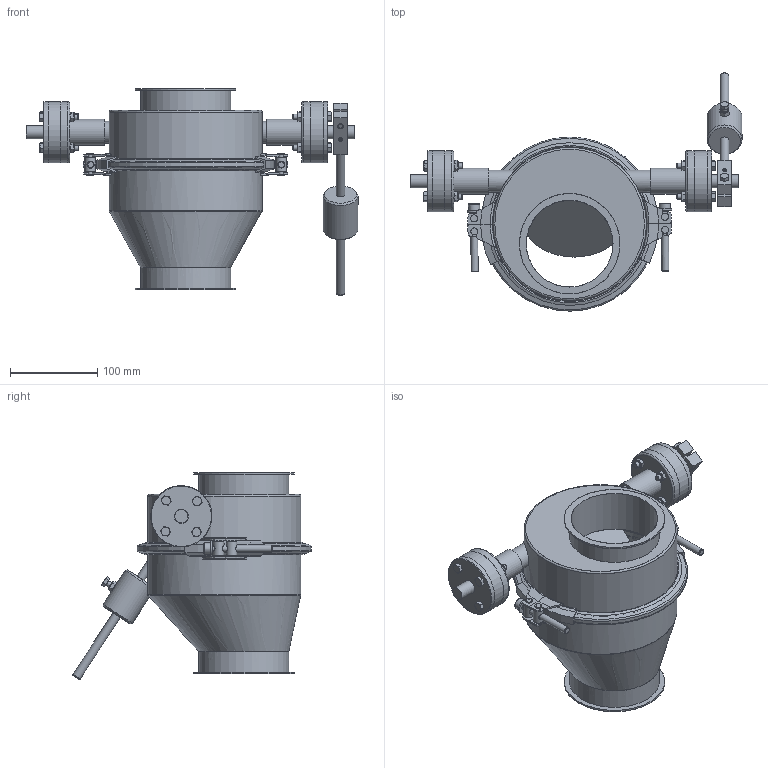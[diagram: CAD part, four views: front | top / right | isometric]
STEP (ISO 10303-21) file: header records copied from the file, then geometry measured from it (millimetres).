
FILE_DESCRIPTION((''),'2;1');
FILE_NAME('U:\Wolfgang\Marcel-3D\fertig\Kapitel 8\1021175.stp','2011-05-03T15:06:58',('TK1'),(''),'Autodesk Inventor 2010','Autodesk Inventor 2010','');
FILE_SCHEMA(('AUTOMOTIVE_DESIGN { 1 0 10303 214 1 1 1 1 }'));
Length unit declared in the file: millimetre
Products named in the file (20): 1021175; Hebel D15; WelleDN100; Wellenende D15; Buchse D15 70-50; lagerdeckel D15; PendelkugellagerD15; DIN EN ISO 4018 M6x40; DIN EN ISO 4018 M6x30; DIN 555 - ersetzt durch DIN EN 24034 M6; DIN 914 M5 x 6; DIN EN ISO 4018 M6x20; 1011175-1; 1712056; 1722055-1; Verschluss b=199; Verschlussrolle; VerschlussrolleGewinde; ISO 4762 M8 x 70; ISO 7089 8 - 140 HV
Assembly tree (44 placements, depth 3):
  1021175
    Hebel D15
    WelleDN100
    Wellenende D15  x2
      Buchse D15 70-50
      lagerdeckel D15
      PendelkugellagerD15
    DIN EN ISO 4018 M6x40  x8
    DIN EN ISO 4018 M6x30
    DIN 555 - ersetzt durch DIN EN 24034 M6  x9
    DIN 914 M5 x 6  x2
    DIN EN ISO 4018 M6x20
    1011175-1
    1712056
      1722055-1  x2
      Verschluss b=199  x4
      Verschlussrolle  x2
      VerschlussrolleGewinde  x2
      ISO 4762 M8 x 70  x2
      ISO 7089 8 - 140 HV  x2
Bounding box: 379.5 x 272.68 x 236.49 mm (x, y, z)
Volume: 523658 mm3; surface area: 655064.5 mm2
Topology: 44 solids, 44 shells, 901 faces, 2136 edges, 1384 vertices
Faces by surface type: plane 347, cylinder 210, cone 184, bspline 137, torus 23
Full cylindrical faces by diameter (mm): 5 x10, 6 x12, 8 x10, 8.4 x2, 9 x1, 10 x2, 12 x4, 13 x2, 15 x5, 15.2 x4, 15.5 x2, 16 x4, 24 x2, 24.8 x2, 25 x2, 30 x2, 35 x2, 40 x1, 70 x6, 99 x2, 99.2 x1, 102.8 x3, 103 x3, 114.8 x2, 115 x2, 171 x1, 171.2 x1, 174.8 x2, 175 x2, 186.8 x1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
Entity records: 13041 total; most frequent: CARTESIAN_POINT 5070, DIRECTION 1576, ORIENTED_EDGE 1324, AXIS2_PLACEMENT_3D 679, EDGE_CURVE 662, EDGE_LOOP 566, VERTEX_POINT 496, FACE_OUTER_BOUND 359
